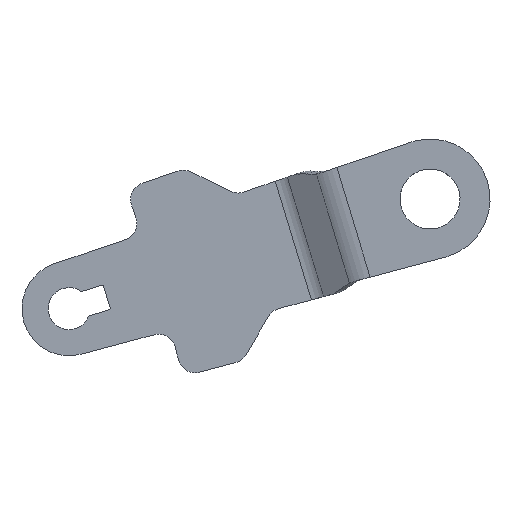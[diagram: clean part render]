
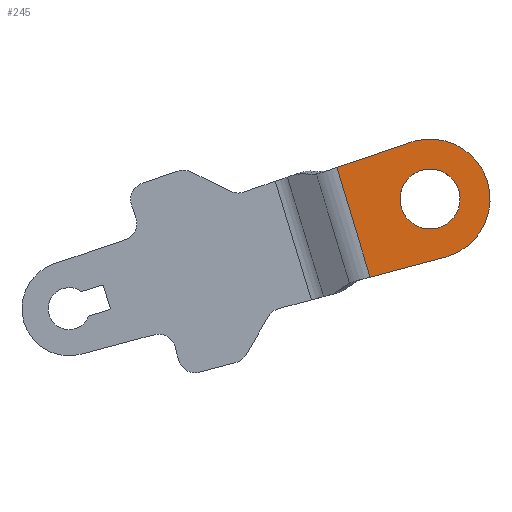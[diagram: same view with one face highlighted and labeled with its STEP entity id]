
A CAD part, front view. The second image highlights one B-rep face of the part: STEP entity #245.
In plain terms, the highlighted planar face has unit normal (0, -1, 0).
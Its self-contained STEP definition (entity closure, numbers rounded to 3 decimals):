
#161=VECTOR('Line Direction',#160,1.) ;
#170=VECTOR('Line Direction',#169,1.) ;
#175=VECTOR('Line Direction',#174,1.) ;
#58=DIRECTION('Axis2P3D Direction',(0.,-1.,0.)) ;
#82=DIRECTION('Axis2P3D Direction',(0.,1.,0.)) ;
#110=DIRECTION('Axis2P3D Direction',(0.,1.,0.)) ;
#129=DIRECTION('Axis2P3D Direction',(0.,1.,0.)) ;
#155=DIRECTION('Axis2P3D Direction',(0.,1.,0.)) ;
#156=DIRECTION('Axis2P3D XDirection',(-0.979,0.,-0.206)) ;
#160=DIRECTION('Vector Direction',(0.29,0.,-0.957)) ;
#169=DIRECTION('Vector Direction',(0.966,0.,0.258)) ;
#174=DIRECTION('Vector Direction',(0.946,0.,0.323)) ;
#210=DIRECTION('Axis2P3D Direction',(0.,1.,0.)) ;
#54=CARTESIAN_POINT('Vertex',(-430.331,-918.33,500.421)) ;
#57=CARTESIAN_POINT('Axis2P3D Location',(-428.071,-918.33,493.796)) ;
#61=CARTESIAN_POINT('Vertex',(-429.874,-918.33,500.56)) ;
#81=CARTESIAN_POINT('Axis2P3D Location',(-428.071,-918.33,493.796)) ;
#85=CARTESIAN_POINT('Vertex',(-421.373,-918.33,495.828)) ;
#87=CARTESIAN_POINT('Vertex',(-425.811,-918.33,487.171)) ;
#109=CARTESIAN_POINT('Axis2P3D Location',(-428.071,-918.33,493.796)) ;
#128=CARTESIAN_POINT('Axis2P3D Location',(-428.071,-918.33,493.796)) ;
#132=CARTESIAN_POINT('Vertex',(-426.268,-918.33,487.032)) ;
#154=CARTESIAN_POINT('Axis2P3D Location',(92.567,-918.324,98.8)) ;
#159=CARTESIAN_POINT('Line Origine',(-436.999,-918.33,491.087)) ;
#163=CARTESIAN_POINT('Vertex',(-435.058,-918.33,484.689)) ;
#165=CARTESIAN_POINT('Vertex',(-438.94,-918.33,497.485)) ;
#168=CARTESIAN_POINT('Line Origine',(-430.663,-918.33,485.861)) ;
#173=CARTESIAN_POINT('Line Origine',(-434.636,-918.33,498.953)) ;
#188=CARTESIAN_POINT('Control Point',(-424.722,-918.33,494.812)) ;
#189=CARTESIAN_POINT('Control Point',(-424.739,-918.33,494.871)) ;
#190=CARTESIAN_POINT('Control Point',(-424.758,-918.33,494.928)) ;
#191=CARTESIAN_POINT('Control Point',(-424.779,-918.33,494.986)) ;
#192=CARTESIAN_POINT('Control Point',(-424.8,-918.33,495.043)) ;
#193=CARTESIAN_POINT('Control Point',(-424.823,-918.33,495.1)) ;
#194=CARTESIAN_POINT('Vertex',(-424.722,-918.33,494.812)) ;
#196=CARTESIAN_POINT('Vertex',(-424.823,-918.33,495.1)) ;
#200=CARTESIAN_POINT('Control Point',(-424.722,-918.33,494.812)) ;
#201=CARTESIAN_POINT('Control Point',(-424.704,-918.33,494.754)) ;
#202=CARTESIAN_POINT('Control Point',(-424.688,-918.33,494.695)) ;
#203=CARTESIAN_POINT('Control Point',(-424.672,-918.33,494.636)) ;
#204=CARTESIAN_POINT('Control Point',(-424.659,-918.33,494.577)) ;
#205=CARTESIAN_POINT('Control Point',(-424.646,-918.33,494.517)) ;
#206=CARTESIAN_POINT('Vertex',(-424.646,-918.33,494.517)) ;
#209=CARTESIAN_POINT('Axis2P3D Location',(-428.071,-918.33,493.796)) ;
#213=CARTESIAN_POINT('Vertex',(-431.42,-918.33,492.78)) ;
#217=CARTESIAN_POINT('Control Point',(-424.823,-918.33,495.1)) ;
#218=CARTESIAN_POINT('Control Point',(-424.959,-918.33,495.44)) ;
#219=CARTESIAN_POINT('Control Point',(-425.14,-918.33,495.762)) ;
#220=CARTESIAN_POINT('Control Point',(-425.363,-918.33,496.059)) ;
#221=CARTESIAN_POINT('Control Point',(-425.881,-918.33,496.587)) ;
#222=CARTESIAN_POINT('Control Point',(-426.517,-918.33,496.964)) ;
#223=CARTESIAN_POINT('Control Point',(-426.858,-918.33,497.11)) ;
#224=CARTESIAN_POINT('Control Point',(-427.57,-918.33,497.308)) ;
#225=CARTESIAN_POINT('Control Point',(-428.309,-918.33,497.317)) ;
#226=CARTESIAN_POINT('Control Point',(-428.678,-918.33,497.272)) ;
#227=CARTESIAN_POINT('Control Point',(-429.394,-918.33,497.088)) ;
#228=CARTESIAN_POINT('Control Point',(-430.038,-918.33,496.726)) ;
#229=CARTESIAN_POINT('Control Point',(-430.335,-918.33,496.503)) ;
#230=CARTESIAN_POINT('Control Point',(-430.863,-918.33,495.985)) ;
#231=CARTESIAN_POINT('Control Point',(-431.24,-918.33,495.349)) ;
#232=CARTESIAN_POINT('Control Point',(-431.385,-918.33,495.008)) ;
#233=CARTESIAN_POINT('Control Point',(-431.567,-918.33,494.355)) ;
#234=CARTESIAN_POINT('Control Point',(-431.589,-918.33,493.68)) ;
#235=CARTESIAN_POINT('Control Point',(-431.566,-918.33,493.373)) ;
#236=CARTESIAN_POINT('Control Point',(-431.509,-918.33,493.072)) ;
#237=CARTESIAN_POINT('Control Point',(-431.42,-918.33,492.78)) ;
#59=AXIS2_PLACEMENT_3D('Circle Axis2P3D',#57,#58,$) ;
#83=AXIS2_PLACEMENT_3D('Circle Axis2P3D',#81,#82,$) ;
#111=AXIS2_PLACEMENT_3D('Circle Axis2P3D',#109,#110,$) ;
#130=AXIS2_PLACEMENT_3D('Circle Axis2P3D',#128,#129,$) ;
#157=AXIS2_PLACEMENT_3D('Plane Axis2P3D',#154,#155,#156) ;
#211=AXIS2_PLACEMENT_3D('Circle Axis2P3D',#209,#210,$) ;
#244=FACE_BOUND('',#239,.T.) ;
#63=EDGE_CURVE('',#62,#55,#60,.T.) ;
#89=EDGE_CURVE('',#86,#88,#84,.T.) ;
#113=EDGE_CURVE('',#86,#62,#112,.F.) ;
#134=EDGE_CURVE('',#88,#133,#131,.T.) ;
#167=EDGE_CURVE('',#164,#166,#162,.F.) ;
#172=EDGE_CURVE('',#164,#133,#171,.T.) ;
#177=EDGE_CURVE('',#166,#55,#176,.T.) ;
#198=EDGE_CURVE('',#195,#197,#187,.T.) ;
#208=EDGE_CURVE('',#195,#207,#199,.T.) ;
#215=EDGE_CURVE('',#207,#214,#212,.T.) ;
#238=EDGE_CURVE('',#197,#214,#216,.T.) ;
#158=PLANE('Plane',#157) ;
#179=ORIENTED_EDGE('',*,*,#167,.F.) ;
#180=ORIENTED_EDGE('',*,*,#172,.T.) ;
#181=ORIENTED_EDGE('',*,*,#134,.F.) ;
#182=ORIENTED_EDGE('',*,*,#89,.F.) ;
#183=ORIENTED_EDGE('',*,*,#113,.T.) ;
#184=ORIENTED_EDGE('',*,*,#63,.T.) ;
#185=ORIENTED_EDGE('',*,*,#177,.F.) ;
#240=ORIENTED_EDGE('',*,*,#198,.F.) ;
#241=ORIENTED_EDGE('',*,*,#208,.T.) ;
#242=ORIENTED_EDGE('',*,*,#215,.T.) ;
#243=ORIENTED_EDGE('',*,*,#238,.F.) ;
#162=LINE('Line',#159,#161) ;
#171=LINE('Line',#168,#170) ;
#176=LINE('Line',#173,#175) ;
#245=ADVANCED_FACE('\X2\51E04F554F53\X0\.8',(#186,#244),#158,.F.) ;
#60=CIRCLE('generated circle',#59,7.) ;
#84=CIRCLE('generated circle',#83,7.) ;
#112=CIRCLE('generated circle',#111,7.) ;
#131=CIRCLE('generated circle',#130,7.) ;
#212=CIRCLE('generated circle',#211,3.5) ;
#55=VERTEX_POINT('',#54) ;
#62=VERTEX_POINT('',#61) ;
#86=VERTEX_POINT('',#85) ;
#88=VERTEX_POINT('',#87) ;
#133=VERTEX_POINT('',#132) ;
#164=VERTEX_POINT('',#163) ;
#166=VERTEX_POINT('',#165) ;
#195=VERTEX_POINT('',#194) ;
#197=VERTEX_POINT('',#196) ;
#207=VERTEX_POINT('',#206) ;
#214=VERTEX_POINT('',#213) ;
#187=B_SPLINE_CURVE_WITH_KNOTS('',5,(#188,#189,#190,#191,#192,#193),.UNSPECIFIED.,.F.,.U.,(6,6),(0.,0.431),.UNSPECIFIED.) ;
#199=B_SPLINE_CURVE_WITH_KNOTS('',5,(#200,#201,#202,#203,#204,#205),.UNSPECIFIED.,.F.,.U.,(6,6),(0.,0.431),.UNSPECIFIED.) ;
#216=B_SPLINE_CURVE_WITH_KNOTS('',5,(#217,#218,#219,#220,#221,#222,#223,#224,#225,#226,#227,#228,#229,#230,#231,#232,#233,#234,#235,#236,#237),.UNSPECIFIED.,.F.,.U.,(6,3,3,3,3,3,6),(0.,2.592,5.185,7.777,10.369,12.961,15.119),.UNSPECIFIED.) ;
#178=EDGE_LOOP('',(#179,#180,#181,#182,#183,#184,#185)) ;
#239=EDGE_LOOP('',(#240,#241,#242,#243)) ;
#186=FACE_OUTER_BOUND('',#178,.T.) ;
